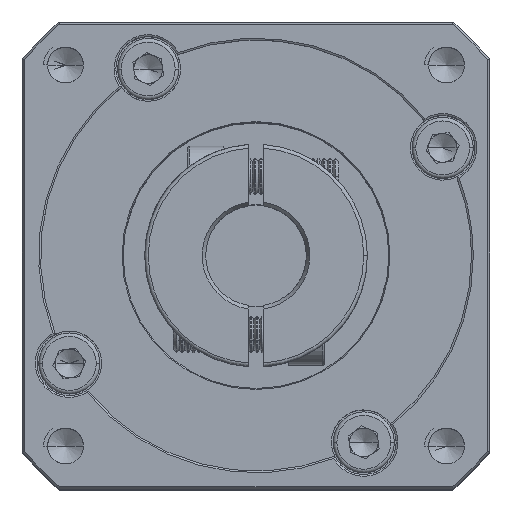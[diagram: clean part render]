
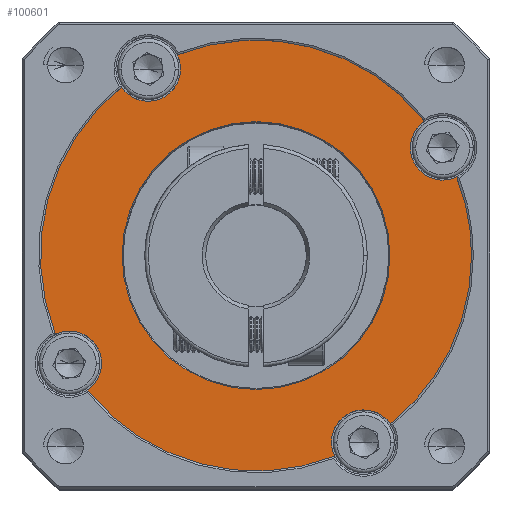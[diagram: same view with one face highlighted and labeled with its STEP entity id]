
A CAD part, top view. The second image highlights one B-rep face of the part: STEP entity #100601.
In plain terms, the highlighted planar face has unit normal (0, 0, 1).
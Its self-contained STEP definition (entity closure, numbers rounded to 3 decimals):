
#24 = ORIENTED_EDGE ( 'NONE', *, *, #90980, .T. ) ;
#875 = CARTESIAN_POINT ( 'NONE',  ( -22.747, 44.687, 14.19 ) ) ;
#992 = EDGE_CURVE ( 'NONE', #76633, #26510, #82709, .T. ) ;
#3181 = CARTESIAN_POINT ( 'NONE',  ( -59.673, 57.62, 14.19 ) ) ;
#3638 = FACE_OUTER_BOUND ( 'NONE', #34316, .T. ) ;
#4037 = DIRECTION ( 'NONE',  ( 1., 0., 0. ) ) ;
#4411 = CIRCLE ( 'NONE', #39620, 4.5 ) ;
#4506 = DIRECTION ( 'NONE',  ( 0., 0., 1. ) ) ;
#4855 = EDGE_CURVE ( 'NONE', #93798, #77624, #86569, .T. ) ;
#4938 = CIRCLE ( 'NONE', #47544, 18.644 ) ;
#6140 = AXIS2_PLACEMENT_3D ( 'NONE', #25389, #84485, #33946 ) ;
#7262 = ORIENTED_EDGE ( 'NONE', *, *, #97450, .F. ) ;
#9320 = DIRECTION ( 'NONE',  ( 1., 0., 0. ) ) ;
#13506 = ORIENTED_EDGE ( 'NONE', *, *, #16271, .F. ) ;
#13590 = AXIS2_PLACEMENT_3D ( 'NONE', #42215, #41833, #39205 ) ;
#14145 = CARTESIAN_POINT ( 'NONE',  ( -18.728, 29.687, 14.19 ) ) ;
#15235 = CIRCLE ( 'NONE', #49300, 4.5 ) ;
#15856 = CARTESIAN_POINT ( 'NONE',  ( -48.728, 29.687, 14.19 ) ) ;
#16271 = EDGE_CURVE ( 'NONE', #76633, #76707, #52279, .T. ) ;
#16563 = CARTESIAN_POINT ( 'NONE',  ( -48.728, 29.687, 14.19 ) ) ;
#17364 = CARTESIAN_POINT ( 'NONE',  ( -30.01, 6.243, 14.19 ) ) ;
#17548 = VERTEX_POINT ( 'NONE', #103890 ) ;
#18237 = CARTESIAN_POINT ( 'NONE',  ( -48.728, 29.687, 14.19 ) ) ;
#19073 = DIRECTION ( 'NONE',  ( 0., 0., 1. ) ) ;
#19254 = DIRECTION ( 'NONE',  ( 0., 0., 1. ) ) ;
#20323 = ORIENTED_EDGE ( 'NONE', *, *, #992, .T. ) ;
#21677 = DIRECTION ( 'NONE',  ( 0., 0., 1. ) ) ;
#21678 = CARTESIAN_POINT ( 'NONE',  ( -76.66, 18.742, 14.19 ) ) ;
#22837 = AXIS2_PLACEMENT_3D ( 'NONE', #55030, #4506, #63493 ) ;
#23524 = VERTEX_POINT ( 'NONE', #3181 ) ;
#24355 = DIRECTION ( 'NONE',  ( 1., 0., 0. ) ) ;
#25045 = DIRECTION ( 'NONE',  ( 1., 0., 0. ) ) ;
#25389 = CARTESIAN_POINT ( 'NONE',  ( -33.728, 3.707, 14.19 ) ) ;
#25569 = CARTESIAN_POINT ( 'NONE',  ( -48.728, 29.687, 14.19 ) ) ;
#25929 = CARTESIAN_POINT ( 'NONE',  ( -20.796, 40.632, 14.19 ) ) ;
#26374 = CARTESIAN_POINT ( 'NONE',  ( -48.728, 29.687, 14.19 ) ) ;
#26510 = VERTEX_POINT ( 'NONE', #14145 ) ;
#26719 = DIRECTION ( 'NONE',  ( 1., 0., 0. ) ) ;
#26825 = EDGE_CURVE ( 'NONE', #57438, #23524, #91687, .T. ) ;
#27621 = ORIENTED_EDGE ( 'NONE', *, *, #28620, .T. ) ;
#27916 = AXIS2_PLACEMENT_3D ( 'NONE', #87486, #36938, #95963 ) ;
#28575 = AXIS2_PLACEMENT_3D ( 'NONE', #105139, #54575, #4037 ) ;
#28620 = EDGE_CURVE ( 'NONE', #26510, #38333, #30305, .T. ) ;
#29407 = CARTESIAN_POINT ( 'NONE',  ( -48.728, 29.687, 14.19 ) ) ;
#30305 = CIRCLE ( 'NONE', #37931, 30. ) ;
#30990 = CARTESIAN_POINT ( 'NONE',  ( -25.283, 48.405, 14.19 ) ) ;
#33946 = DIRECTION ( 'NONE',  ( 1., 0., 0. ) ) ;
#34127 = DIRECTION ( 'NONE',  ( 1., 0., 0. ) ) ;
#34316 = EDGE_LOOP ( 'NONE', ( #93702, #24, #7262, #13506, #20323, #27621, #34826, #42087, #49212, #63200, #67098, #65074, #74258 ) ) ;
#34826 = ORIENTED_EDGE ( 'NONE', *, *, #46386, .F. ) ;
#34895 = DIRECTION ( 'NONE',  ( 1., 0., 0. ) ) ;
#34934 = CARTESIAN_POINT ( 'NONE',  ( -67.372, 29.687, 14.19 ) ) ;
#35109 = CARTESIAN_POINT ( 'NONE',  ( -38.228, 3.707, 14.19 ) ) ;
#36127 = CARTESIAN_POINT ( 'NONE',  ( -37.783, 1.755, 14.19 ) ) ;
#36938 = DIRECTION ( 'NONE',  ( 0., 0., 1. ) ) ;
#37769 = AXIS2_PLACEMENT_3D ( 'NONE', #71902, #71679, #71665 ) ;
#37930 = DIRECTION ( 'NONE',  ( 1., 0., 0. ) ) ;
#37931 = AXIS2_PLACEMENT_3D ( 'NONE', #26374, #85438, #34895 ) ;
#38333 = VERTEX_POINT ( 'NONE', #25929 ) ;
#39205 = DIRECTION ( 'NONE',  ( 1., 0., 0. ) ) ;
#39620 = AXIS2_PLACEMENT_3D ( 'NONE', #72176, #21677, #80722 ) ;
#41833 = DIRECTION ( 'NONE',  ( 0., 0., 1. ) ) ;
#42087 = ORIENTED_EDGE ( 'NONE', *, *, #65750, .F. ) ;
#42215 = CARTESIAN_POINT ( 'NONE',  ( -48.728, 29.687, 14.19 ) ) ;
#45665 = VERTEX_POINT ( 'NONE', #36127 ) ;
#45687 = PLANE ( 'NONE',  #49042 ) ;
#46386 = EDGE_CURVE ( 'NONE', #77934, #38333, #105385, .T. ) ;
#46547 = VERTEX_POINT ( 'NONE', #95273 ) ;
#47544 = AXIS2_PLACEMENT_3D ( 'NONE', #18237, #77315, #26719 ) ;
#49042 = AXIS2_PLACEMENT_3D ( 'NONE', #29407, #88462, #37930 ) ;
#49212 = ORIENTED_EDGE ( 'NONE', *, *, #92584, .T. ) ;
#49300 = AXIS2_PLACEMENT_3D ( 'NONE', #69568, #19073, #78143 ) ;
#51221 = EDGE_CURVE ( 'NONE', #91450, #94148, #4938, .T. ) ;
#52279 = CIRCLE ( 'NONE', #74192, 4.5 ) ;
#54443 = EDGE_CURVE ( 'NONE', #46547, #57438, #15235, .T. ) ;
#54575 = DIRECTION ( 'NONE',  ( 0., 0., 1. ) ) ;
#55030 = CARTESIAN_POINT ( 'NONE',  ( -63.728, 55.668, 14.19 ) ) ;
#57438 = VERTEX_POINT ( 'NONE', #102545 ) ;
#58485 = CIRCLE ( 'NONE', #106662, 30. ) ;
#59821 = DIRECTION ( 'NONE',  ( 0., 0., 1. ) ) ;
#60014 = EDGE_CURVE ( 'NONE', #94148, #91450, #106598, .T. ) ;
#60649 = CIRCLE ( 'NONE', #87813, 30. ) ;
#61692 = ORIENTED_EDGE ( 'NONE', *, *, #51221, .T. ) ;
#63200 = ORIENTED_EDGE ( 'NONE', *, *, #26825, .F. ) ;
#63493 = DIRECTION ( 'NONE',  ( 1., 0., 0. ) ) ;
#64676 = EDGE_LOOP ( 'NONE', ( #61692, #76665 ) ) ;
#65074 = ORIENTED_EDGE ( 'NONE', *, *, #72325, .T. ) ;
#65750 = EDGE_CURVE ( 'NONE', #82926, #77934, #4411, .T. ) ;
#67098 = ORIENTED_EDGE ( 'NONE', *, *, #54443, .F. ) ;
#69568 = CARTESIAN_POINT ( 'NONE',  ( -63.728, 55.668, 14.19 ) ) ;
#69736 = CARTESIAN_POINT ( 'NONE',  ( -33.728, 3.707, 14.19 ) ) ;
#71665 = DIRECTION ( 'NONE',  ( 1., 0., 0. ) ) ;
#71679 = DIRECTION ( 'NONE',  ( 0., 0., 1. ) ) ;
#71902 = CARTESIAN_POINT ( 'NONE',  ( -74.709, 14.687, 14.19 ) ) ;
#72176 = CARTESIAN_POINT ( 'NONE',  ( -22.747, 44.687, 14.19 ) ) ;
#72325 = EDGE_CURVE ( 'NONE', #46547, #77624, #60649, .T. ) ;
#74192 = AXIS2_PLACEMENT_3D ( 'NONE', #69736, #19254, #78309 ) ;
#74258 = ORIENTED_EDGE ( 'NONE', *, *, #4855, .F. ) ;
#74905 = DIRECTION ( 'NONE',  ( 0., 0., -1. ) ) ;
#74951 = AXIS2_PLACEMENT_3D ( 'NONE', #15856, #74905, #24355 ) ;
#75619 = DIRECTION ( 'NONE',  ( 0., 0., 1. ) ) ;
#76633 = VERTEX_POINT ( 'NONE', #17364 ) ;
#76665 = ORIENTED_EDGE ( 'NONE', *, *, #60014, .T. ) ;
#76707 = VERTEX_POINT ( 'NONE', #35109 ) ;
#77315 = DIRECTION ( 'NONE',  ( 0., 0., -1. ) ) ;
#77624 = VERTEX_POINT ( 'NONE', #21678 ) ;
#77934 = VERTEX_POINT ( 'NONE', #102028 ) ;
#78143 = DIRECTION ( 'NONE',  ( 1., 0., 0. ) ) ;
#78309 = DIRECTION ( 'NONE',  ( 1., 0., 0. ) ) ;
#80722 = DIRECTION ( 'NONE',  ( 1., 0., 0. ) ) ;
#82709 = CIRCLE ( 'NONE', #13590, 30. ) ;
#82926 = VERTEX_POINT ( 'NONE', #30990 ) ;
#84485 = DIRECTION ( 'NONE',  ( 0., 0., 1. ) ) ;
#84656 = DIRECTION ( 'NONE',  ( 0., 0., 1. ) ) ;
#84931 = CIRCLE ( 'NONE', #6140, 4.5 ) ;
#85438 = DIRECTION ( 'NONE',  ( 0., 0., 1. ) ) ;
#86327 = AXIS2_PLACEMENT_3D ( 'NONE', #875, #59821, #9320 ) ;
#86569 = CIRCLE ( 'NONE', #37769, 4.5 ) ;
#87486 = CARTESIAN_POINT ( 'NONE',  ( -48.728, 29.687, 14.19 ) ) ;
#87813 = AXIS2_PLACEMENT_3D ( 'NONE', #25569, #84656, #34127 ) ;
#88131 = FACE_BOUND ( 'NONE', #64676, .T. ) ;
#88462 = DIRECTION ( 'NONE',  ( 0., 0., 1. ) ) ;
#90581 = EDGE_CURVE ( 'NONE', #17548, #93798, #101903, .T. ) ;
#90980 = EDGE_CURVE ( 'NONE', #17548, #45665, #99078, .T. ) ;
#91450 = VERTEX_POINT ( 'NONE', #93266 ) ;
#91687 = CIRCLE ( 'NONE', #22837, 4.5 ) ;
#92584 = EDGE_CURVE ( 'NONE', #82926, #23524, #58485, .T. ) ;
#93266 = CARTESIAN_POINT ( 'NONE',  ( -30.083, 29.687, 14.19 ) ) ;
#93702 = ORIENTED_EDGE ( 'NONE', *, *, #90581, .F. ) ;
#93798 = VERTEX_POINT ( 'NONE', #97386 ) ;
#94148 = VERTEX_POINT ( 'NONE', #34934 ) ;
#95273 = CARTESIAN_POINT ( 'NONE',  ( -67.445, 53.132, 14.19 ) ) ;
#95963 = DIRECTION ( 'NONE',  ( 1., 0., 0. ) ) ;
#97386 = CARTESIAN_POINT ( 'NONE',  ( -70.209, 14.687, 14.19 ) ) ;
#97450 = EDGE_CURVE ( 'NONE', #76707, #45665, #84931, .T. ) ;
#99078 = CIRCLE ( 'NONE', #27916, 30. ) ;
#100601 = ADVANCED_FACE ( 'NONE', ( #88131, #3638 ), #45687, .T. ) ;
#101903 = CIRCLE ( 'NONE', #28575, 4.5 ) ;
#102028 = CARTESIAN_POINT ( 'NONE',  ( -27.247, 44.687, 14.19 ) ) ;
#102545 = CARTESIAN_POINT ( 'NONE',  ( -59.228, 55.668, 14.19 ) ) ;
#103890 = CARTESIAN_POINT ( 'NONE',  ( -72.173, 10.97, 14.19 ) ) ;
#105139 = CARTESIAN_POINT ( 'NONE',  ( -74.709, 14.687, 14.19 ) ) ;
#105385 = CIRCLE ( 'NONE', #86327, 4.5 ) ;
#106598 = CIRCLE ( 'NONE', #74951, 18.644 ) ;
#106662 = AXIS2_PLACEMENT_3D ( 'NONE', #16563, #75619, #25045 ) ;
